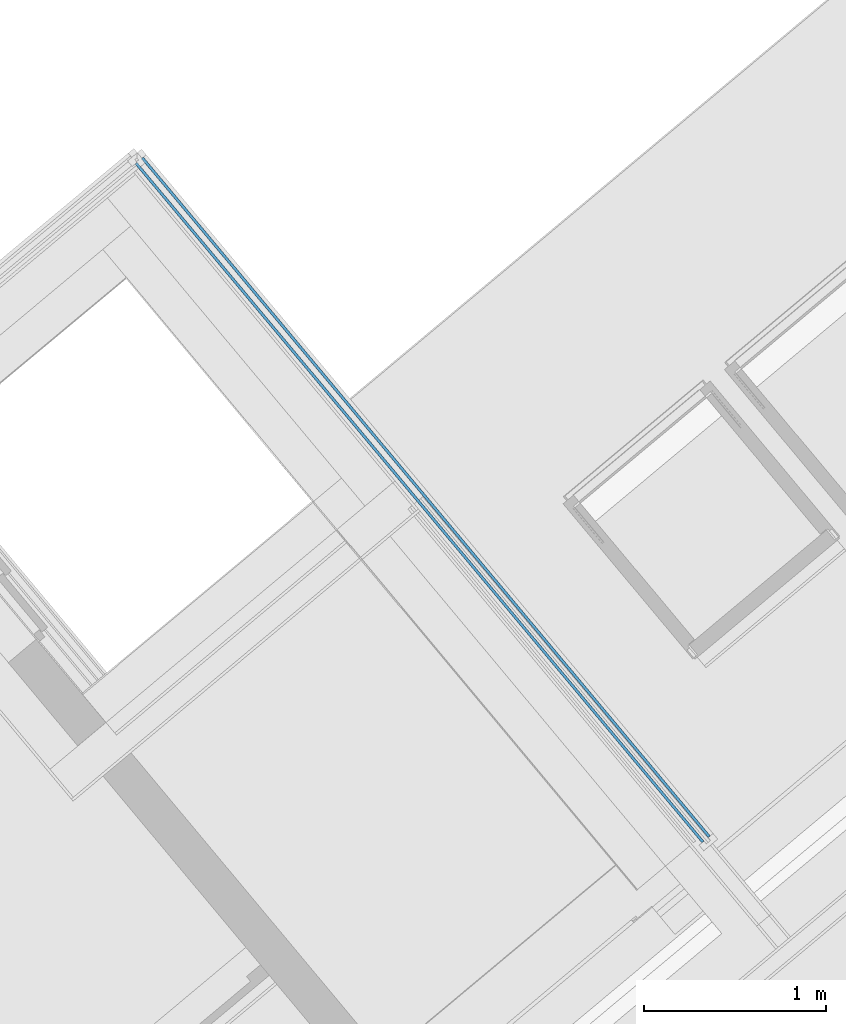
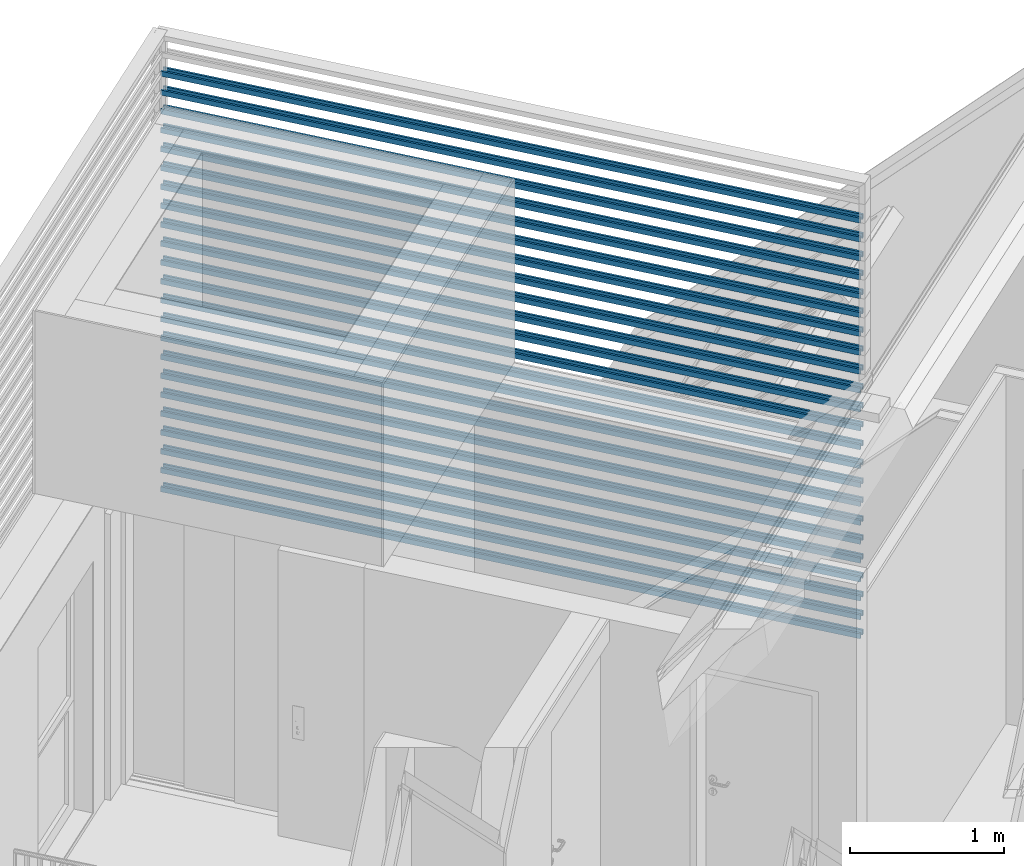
# One storey, part 28 of 47: 23 building element parts, 1 element without a shape of its own.
"""IFC4 building model written with IfcOpenShell, lengths in metres."""

from ifc_helpers import new_model, entity, si_unit, converted_unit, derived_unit, direction, frame, origin_with_axes, place, context, subcontext, project, spatial, polygons, material, type_object, element, aggregate, save


model = new_model("IFC4")

# Units and contexts
model_context = context("Model", 3, precision=1e-05, world=origin_with_axes(), true_north=direction((0.0, 1.0)))
body_context = subcontext(model_context, "Body", "Model", "MODEL_VIEW")
ifc_project = project(units=[si_unit("LENGTHUNIT", "METRE"), si_unit("AREAUNIT", "SQUARE_METRE"), si_unit("VOLUMEUNIT", "CUBIC_METRE"), converted_unit("PLANEANGLEUNIT", "DEGREE", entity("IfcPlaneAngleMeasure", 0.0174532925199), si_unit("PLANEANGLEUNIT", "RADIAN"), dimensions=[0, 0, 0, 0, 0, 0, 0]), converted_unit("TIMEUNIT", "Year", entity("IfcTimeMeasure", 31556926.0), si_unit("TIMEUNIT", "SECOND"), dimensions=[0, 0, 1, 0, 0, 0, 0]), si_unit("MASSUNIT", "GRAM", prefix="KILO"), si_unit("THERMODYNAMICTEMPERATUREUNIT", "DEGREE_CELSIUS"), si_unit("LUMINOUSINTENSITYUNIT", "LUMEN"), si_unit("ENERGYUNIT", "JOULE", prefix="MEGA"), derived_unit("THERMALCONDUCTANCEUNIT", [(si_unit("POWERUNIT", "WATT"), 1), (si_unit("LENGTHUNIT", "METRE"), -1), (si_unit("THERMODYNAMICTEMPERATUREUNIT", "KELVIN"), -1)]), derived_unit("SPECIFICHEATCAPACITYUNIT", [(si_unit("ENERGYUNIT", "JOULE"), 1), (si_unit("MASSUNIT", "GRAM", prefix="KILO"), -1), (si_unit("THERMODYNAMICTEMPERATUREUNIT", "KELVIN"), -1)]), derived_unit("MASSDENSITYUNIT", [(si_unit("MASSUNIT", "GRAM", prefix="KILO"), 1), (si_unit("VOLUMEUNIT", "CUBIC_METRE"), -1)])], contexts=[model_context])

# Site, building, storey
site_placement = place(None, frame((-0.00153261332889, -0.00661245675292, 0.0), z_axis=(0.0, 0.0, 1.0), x_axis=(1.0, 0.0, 0.0)))
site = spatial("IfcSite", under=ifc_project, at=site_placement, Name="Site", CompositionType="ELEMENT")
building_placement = place(site_placement, origin_with_axes())
building = spatial("IfcBuilding", under=site, at=building_placement, Name="Building", CompositionType="ELEMENT")
storey_placement = place(building_placement, frame((0.0, 0.0, 8.66), z_axis=(0.0, 0.0, 1.0), x_axis=(1.0, 0.0, 0.0)))
storey = spatial("IfcBuildingStorey", under=building, at=storey_placement, Name="DG2", CompositionType="ELEMENT", Elevation=8.66)

# Curtain wall, building element parts
curtain_wall_type = type_object("IfcCurtainWallType", Name="Fassadentyp", PredefinedType="NOTDEFINED")
curtain_wall_placement = place(storey_placement, frame((3.22758193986, 25.8519152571, 0.32), z_axis=(0.0, 0.0, 1.0), x_axis=(1.0, 0.0, 0.0)))
curtain_wall = element("IfcCurtainWall", 1, at=curtain_wall_placement, inside=storey, type_object=curtain_wall_type, Name="Fassade-001", PredefinedType="NOTDEFINED")
ifc_material = material(Name="Blech")
building_element_part_1_placement = place(curtain_wall_placement, origin_with_axes())
building_element_part_1 = element("IfcBuildingElementPart", 2, at=building_element_part_1_placement, material=ifc_material, Name="Blech", PredefinedType="NOTDEFINED", context=body_context, shape_type="Tessellation", body=[
    polygons([(-1.56506390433, 1.85045496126, 0.75), (-1.56506390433, 1.85045496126, 0.77), (1.54203854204, -1.86968599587, 0.77), (1.54203854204, -1.86968599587, 0.75), (1.54203854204, -1.86968599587, 0.73), (-1.56506390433, 1.85045496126, 0.73), (-1.57657658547, 1.84083944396, 0.73), (-1.57657658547, 1.84083944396, 0.77), (1.5305258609, -1.87930151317, 0.77), (1.5305258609, -1.87930151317, 0.73)], [[[1, 2, 3, 4, 5, 6]], [[6, 7, 8, 2, 1]], [[3, 2, 8, 9]], [[4, 3, 9, 10, 5]], [[5, 10, 7, 6]], [[10, 9, 8, 7]]], closed=True),
    polygons([(1.56506390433, -1.85045496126, 0.73), (1.57657658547, -1.84083944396, 0.73), (1.57657658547, -1.84083944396, 0.77), (1.56506390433, -1.85045496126, 0.77), (1.56506390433, -1.85045496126, 0.75), (-1.54203854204, 1.86968599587, 0.73), (-1.5305258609, 1.87930151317, 0.73), (-1.5305258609, 1.87930151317, 0.77), (-1.54203854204, 1.86968599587, 0.77), (-1.54203854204, 1.86968599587, 0.75)], [[[1, 2, 3, 4, 5]], [[6, 7, 2, 1]], [[3, 2, 7, 8]], [[9, 4, 3, 8]], [[5, 4, 9, 10, 6, 1]], [[10, 9, 8, 7, 6]]], closed=True),
])
building_element_part_2_placement = place(curtain_wall_placement, origin_with_axes())
building_element_part_2 = element("IfcBuildingElementPart", 3, at=building_element_part_2_placement, material=ifc_material, Name="Blech", PredefinedType="NOTDEFINED", context=body_context, shape_type="Tessellation", body=[
    polygons([(-1.56506390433, 1.85045496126, 0.9), (-1.56506390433, 1.85045496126, 0.92), (1.54203854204, -1.86968599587, 0.92), (1.54203854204, -1.86968599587, 0.9), (1.54203854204, -1.86968599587, 0.88), (-1.56506390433, 1.85045496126, 0.88), (-1.57657658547, 1.84083944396, 0.88), (-1.57657658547, 1.84083944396, 0.92), (1.5305258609, -1.87930151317, 0.92), (1.5305258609, -1.87930151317, 0.88)], [[[1, 2, 3, 4, 5, 6]], [[6, 7, 8, 2, 1]], [[3, 2, 8, 9]], [[4, 3, 9, 10, 5]], [[5, 10, 7, 6]], [[10, 9, 8, 7]]], closed=True),
    polygons([(1.56506390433, -1.85045496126, 0.88), (1.57657658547, -1.84083944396, 0.88), (1.57657658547, -1.84083944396, 0.92), (1.56506390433, -1.85045496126, 0.92), (1.56506390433, -1.85045496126, 0.9), (-1.54203854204, 1.86968599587, 0.88), (-1.5305258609, 1.87930151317, 0.88), (-1.5305258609, 1.87930151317, 0.92), (-1.54203854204, 1.86968599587, 0.92), (-1.54203854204, 1.86968599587, 0.9)], [[[1, 2, 3, 4, 5]], [[6, 7, 2, 1]], [[3, 2, 7, 8]], [[9, 4, 3, 8]], [[5, 4, 9, 10, 6, 1]], [[10, 9, 8, 7, 6]]], closed=True),
])
building_element_part_3_placement = place(curtain_wall_placement, origin_with_axes())
building_element_part_3 = element("IfcBuildingElementPart", 4, at=building_element_part_3_placement, material=ifc_material, Name="Blech", PredefinedType="NOTDEFINED", context=body_context, shape_type="Tessellation", body=[
    polygons([(-1.56506390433, 1.85045496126, 1.05), (-1.56506390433, 1.85045496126, 1.07), (1.54203854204, -1.86968599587, 1.07), (1.54203854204, -1.86968599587, 1.05), (1.54203854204, -1.86968599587, 1.03), (-1.56506390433, 1.85045496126, 1.03), (-1.57657658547, 1.84083944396, 1.03), (-1.57657658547, 1.84083944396, 1.07), (1.5305258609, -1.87930151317, 1.07), (1.5305258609, -1.87930151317, 1.03)], [[[1, 2, 3, 4, 5, 6]], [[6, 7, 8, 2, 1]], [[3, 2, 8, 9]], [[4, 3, 9, 10, 5]], [[5, 10, 7, 6]], [[10, 9, 8, 7]]], closed=True),
    polygons([(1.56506390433, -1.85045496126, 1.03), (1.57657658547, -1.84083944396, 1.03), (1.57657658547, -1.84083944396, 1.07), (1.56506390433, -1.85045496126, 1.07), (1.56506390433, -1.85045496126, 1.05), (-1.54203854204, 1.86968599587, 1.03), (-1.5305258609, 1.87930151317, 1.03), (-1.5305258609, 1.87930151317, 1.07), (-1.54203854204, 1.86968599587, 1.07), (-1.54203854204, 1.86968599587, 1.05)], [[[1, 2, 3, 4, 5]], [[6, 7, 2, 1]], [[3, 2, 7, 8]], [[9, 4, 3, 8]], [[5, 4, 9, 10, 6, 1]], [[10, 9, 8, 7, 6]]], closed=True),
])
building_element_part_4_placement = place(curtain_wall_placement, origin_with_axes())
building_element_part_4 = element("IfcBuildingElementPart", 5, at=building_element_part_4_placement, material=ifc_material, Name="Blech", PredefinedType="NOTDEFINED", context=body_context, shape_type="Tessellation", body=[
    polygons([(-1.56506390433, 1.85045496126, 1.2), (-1.56506390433, 1.85045496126, 1.22), (1.54203854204, -1.86968599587, 1.22), (1.54203854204, -1.86968599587, 1.2), (1.54203854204, -1.86968599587, 1.18), (-1.56506390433, 1.85045496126, 1.18), (-1.57657658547, 1.84083944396, 1.18), (-1.57657658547, 1.84083944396, 1.22), (1.5305258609, -1.87930151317, 1.22), (1.5305258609, -1.87930151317, 1.18)], [[[1, 2, 3, 4, 5, 6]], [[6, 7, 8, 2, 1]], [[3, 2, 8, 9]], [[4, 3, 9, 10, 5]], [[5, 10, 7, 6]], [[10, 9, 8, 7]]], closed=True),
    polygons([(1.56506390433, -1.85045496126, 1.18), (1.57657658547, -1.84083944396, 1.18), (1.57657658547, -1.84083944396, 1.22), (1.56506390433, -1.85045496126, 1.22), (1.56506390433, -1.85045496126, 1.2), (-1.54203854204, 1.86968599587, 1.18), (-1.5305258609, 1.87930151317, 1.18), (-1.5305258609, 1.87930151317, 1.22), (-1.54203854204, 1.86968599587, 1.22), (-1.54203854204, 1.86968599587, 1.2)], [[[1, 2, 3, 4, 5]], [[6, 7, 2, 1]], [[3, 2, 7, 8]], [[9, 4, 3, 8]], [[5, 4, 9, 10, 6, 1]], [[10, 9, 8, 7, 6]]], closed=True),
])
building_element_part_5_placement = place(curtain_wall_placement, origin_with_axes())
building_element_part_5 = element("IfcBuildingElementPart", 6, at=building_element_part_5_placement, material=ifc_material, Name="Blech", PredefinedType="NOTDEFINED", context=body_context, shape_type="Tessellation", body=[
    polygons([(-1.56506390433, 1.85045496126, 1.35), (-1.56506390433, 1.85045496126, 1.37), (1.54203854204, -1.86968599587, 1.37), (1.54203854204, -1.86968599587, 1.35), (1.54203854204, -1.86968599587, 1.33), (-1.56506390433, 1.85045496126, 1.33), (-1.57657658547, 1.84083944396, 1.33), (-1.57657658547, 1.84083944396, 1.37), (1.5305258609, -1.87930151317, 1.37), (1.5305258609, -1.87930151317, 1.33)], [[[1, 2, 3, 4, 5, 6]], [[6, 7, 8, 2, 1]], [[3, 2, 8, 9]], [[4, 3, 9, 10, 5]], [[5, 10, 7, 6]], [[10, 9, 8, 7]]], closed=True),
    polygons([(1.56506390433, -1.85045496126, 1.33), (1.57657658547, -1.84083944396, 1.33), (1.57657658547, -1.84083944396, 1.37), (1.56506390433, -1.85045496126, 1.37), (1.56506390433, -1.85045496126, 1.35), (-1.54203854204, 1.86968599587, 1.33), (-1.5305258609, 1.87930151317, 1.33), (-1.5305258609, 1.87930151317, 1.37), (-1.54203854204, 1.86968599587, 1.37), (-1.54203854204, 1.86968599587, 1.35)], [[[1, 2, 3, 4, 5]], [[6, 7, 2, 1]], [[3, 2, 7, 8]], [[9, 4, 3, 8]], [[5, 4, 9, 10, 6, 1]], [[10, 9, 8, 7, 6]]], closed=True),
])
building_element_part_6_placement = place(curtain_wall_placement, origin_with_axes())
building_element_part_6 = element("IfcBuildingElementPart", 7, at=building_element_part_6_placement, material=ifc_material, Name="Blech", PredefinedType="NOTDEFINED", context=body_context, shape_type="Tessellation", body=[
    polygons([(-1.56506390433, 1.85045496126, 1.5), (-1.56506390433, 1.85045496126, 1.52), (1.54203854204, -1.86968599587, 1.52), (1.54203854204, -1.86968599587, 1.5), (1.54203854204, -1.86968599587, 1.48), (-1.56506390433, 1.85045496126, 1.48), (-1.57657658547, 1.84083944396, 1.48), (-1.57657658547, 1.84083944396, 1.52), (1.5305258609, -1.87930151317, 1.52), (1.5305258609, -1.87930151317, 1.48)], [[[1, 2, 3, 4, 5, 6]], [[6, 7, 8, 2, 1]], [[3, 2, 8, 9]], [[4, 3, 9, 10, 5]], [[5, 10, 7, 6]], [[10, 9, 8, 7]]], closed=True),
    polygons([(1.56506390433, -1.85045496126, 1.48), (1.57657658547, -1.84083944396, 1.48), (1.57657658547, -1.84083944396, 1.52), (1.56506390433, -1.85045496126, 1.52), (1.56506390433, -1.85045496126, 1.5), (-1.54203854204, 1.86968599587, 1.48), (-1.5305258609, 1.87930151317, 1.48), (-1.5305258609, 1.87930151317, 1.52), (-1.54203854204, 1.86968599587, 1.52), (-1.54203854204, 1.86968599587, 1.5)], [[[1, 2, 3, 4, 5]], [[6, 7, 2, 1]], [[3, 2, 7, 8]], [[9, 4, 3, 8]], [[5, 4, 9, 10, 6, 1]], [[10, 9, 8, 7, 6]]], closed=True),
])
building_element_part_7_placement = place(curtain_wall_placement, origin_with_axes())
building_element_part_7 = element("IfcBuildingElementPart", 8, at=building_element_part_7_placement, material=ifc_material, Name="Blech", PredefinedType="NOTDEFINED", context=body_context, shape_type="Tessellation", body=[
    polygons([(-1.56506390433, 1.85045496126, 1.65), (-1.56506390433, 1.85045496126, 1.67), (1.54203854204, -1.86968599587, 1.67), (1.54203854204, -1.86968599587, 1.65), (1.54203854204, -1.86968599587, 1.63), (-1.56506390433, 1.85045496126, 1.63), (-1.57657658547, 1.84083944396, 1.63), (-1.57657658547, 1.84083944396, 1.67), (1.5305258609, -1.87930151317, 1.67), (1.5305258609, -1.87930151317, 1.63)], [[[1, 2, 3, 4, 5, 6]], [[6, 7, 8, 2, 1]], [[3, 2, 8, 9]], [[4, 3, 9, 10, 5]], [[5, 10, 7, 6]], [[10, 9, 8, 7]]], closed=True),
    polygons([(1.56506390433, -1.85045496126, 1.63), (1.57657658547, -1.84083944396, 1.63), (1.57657658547, -1.84083944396, 1.67), (1.56506390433, -1.85045496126, 1.67), (1.56506390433, -1.85045496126, 1.65), (-1.54203854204, 1.86968599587, 1.63), (-1.5305258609, 1.87930151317, 1.63), (-1.5305258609, 1.87930151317, 1.67), (-1.54203854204, 1.86968599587, 1.67), (-1.54203854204, 1.86968599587, 1.65)], [[[1, 2, 3, 4, 5]], [[6, 7, 2, 1]], [[3, 2, 7, 8]], [[9, 4, 3, 8]], [[5, 4, 9, 10, 6, 1]], [[10, 9, 8, 7, 6]]], closed=True),
])
building_element_part_8_placement = place(curtain_wall_placement, origin_with_axes())
building_element_part_8 = element("IfcBuildingElementPart", 9, at=building_element_part_8_placement, material=ifc_material, Name="Blech", PredefinedType="NOTDEFINED", context=body_context, shape_type="Tessellation", body=[
    polygons([(-1.56506390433, 1.85045496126, 1.8), (-1.56506390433, 1.85045496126, 1.82), (1.54203854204, -1.86968599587, 1.82), (1.54203854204, -1.86968599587, 1.8), (1.54203854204, -1.86968599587, 1.78), (-1.56506390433, 1.85045496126, 1.78), (-1.57657658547, 1.84083944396, 1.78), (-1.57657658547, 1.84083944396, 1.82), (1.5305258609, -1.87930151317, 1.82), (1.5305258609, -1.87930151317, 1.78)], [[[1, 2, 3, 4, 5, 6]], [[6, 7, 8, 2, 1]], [[3, 2, 8, 9]], [[4, 3, 9, 10, 5]], [[5, 10, 7, 6]], [[10, 9, 8, 7]]], closed=True),
    polygons([(1.56506390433, -1.85045496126, 1.78), (1.57657658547, -1.84083944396, 1.78), (1.57657658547, -1.84083944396, 1.82), (1.56506390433, -1.85045496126, 1.82), (1.56506390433, -1.85045496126, 1.8), (-1.54203854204, 1.86968599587, 1.78), (-1.5305258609, 1.87930151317, 1.78), (-1.5305258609, 1.87930151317, 1.82), (-1.54203854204, 1.86968599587, 1.82), (-1.54203854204, 1.86968599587, 1.8)], [[[1, 2, 3, 4, 5]], [[6, 7, 2, 1]], [[3, 2, 7, 8]], [[9, 4, 3, 8]], [[5, 4, 9, 10, 6, 1]], [[10, 9, 8, 7, 6]]], closed=True),
])
building_element_part_9_placement = place(curtain_wall_placement, origin_with_axes())
building_element_part_9 = element("IfcBuildingElementPart", 10, at=building_element_part_9_placement, material=ifc_material, Name="Blech", PredefinedType="NOTDEFINED", context=body_context, shape_type="Tessellation", body=[
    polygons([(-1.56506390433, 1.85045496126, 1.95), (-1.56506390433, 1.85045496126, 1.97), (1.54203854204, -1.86968599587, 1.97), (1.54203854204, -1.86968599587, 1.95), (1.54203854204, -1.86968599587, 1.93), (-1.56506390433, 1.85045496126, 1.93), (-1.57657658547, 1.84083944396, 1.93), (-1.57657658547, 1.84083944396, 1.97), (1.5305258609, -1.87930151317, 1.97), (1.5305258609, -1.87930151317, 1.93)], [[[1, 2, 3, 4, 5, 6]], [[6, 7, 8, 2, 1]], [[3, 2, 8, 9]], [[4, 3, 9, 10, 5]], [[5, 10, 7, 6]], [[10, 9, 8, 7]]], closed=True),
    polygons([(1.56506390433, -1.85045496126, 1.93), (1.57657658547, -1.84083944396, 1.93), (1.57657658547, -1.84083944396, 1.97), (1.56506390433, -1.85045496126, 1.97), (1.56506390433, -1.85045496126, 1.95), (-1.54203854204, 1.86968599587, 1.93), (-1.5305258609, 1.87930151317, 1.93), (-1.5305258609, 1.87930151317, 1.97), (-1.54203854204, 1.86968599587, 1.97), (-1.54203854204, 1.86968599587, 1.95)], [[[1, 2, 3, 4, 5]], [[6, 7, 2, 1]], [[3, 2, 7, 8]], [[9, 4, 3, 8]], [[5, 4, 9, 10, 6, 1]], [[10, 9, 8, 7, 6]]], closed=True),
])
building_element_part_10_placement = place(curtain_wall_placement, origin_with_axes())
building_element_part_10 = element("IfcBuildingElementPart", 11, at=building_element_part_10_placement, material=ifc_material, Name="Blech", PredefinedType="NOTDEFINED", context=body_context, shape_type="Tessellation", body=[
    polygons([(-1.56506390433, 1.85045496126, 2.1), (-1.56506390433, 1.85045496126, 2.12), (1.54203854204, -1.86968599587, 2.12), (1.54203854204, -1.86968599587, 2.1), (1.54203854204, -1.86968599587, 2.08), (-1.56506390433, 1.85045496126, 2.08), (-1.57657658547, 1.84083944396, 2.08), (-1.57657658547, 1.84083944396, 2.12), (1.5305258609, -1.87930151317, 2.12), (1.5305258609, -1.87930151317, 2.08)], [[[1, 2, 3, 4, 5, 6]], [[6, 7, 8, 2, 1]], [[3, 2, 8, 9]], [[4, 3, 9, 10, 5]], [[5, 10, 7, 6]], [[10, 9, 8, 7]]], closed=True),
    polygons([(1.56506390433, -1.85045496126, 2.08), (1.57657658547, -1.84083944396, 2.08), (1.57657658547, -1.84083944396, 2.12), (1.56506390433, -1.85045496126, 2.12), (1.56506390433, -1.85045496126, 2.1), (-1.54203854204, 1.86968599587, 2.08), (-1.5305258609, 1.87930151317, 2.08), (-1.5305258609, 1.87930151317, 2.12), (-1.54203854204, 1.86968599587, 2.12), (-1.54203854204, 1.86968599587, 2.1)], [[[1, 2, 3, 4, 5]], [[6, 7, 2, 1]], [[3, 2, 7, 8]], [[9, 4, 3, 8]], [[5, 4, 9, 10, 6, 1]], [[10, 9, 8, 7, 6]]], closed=True),
])
building_element_part_11_placement = place(curtain_wall_placement, origin_with_axes())
building_element_part_11 = element("IfcBuildingElementPart", 12, at=building_element_part_11_placement, material=ifc_material, Name="Blech", PredefinedType="NOTDEFINED", context=body_context, shape_type="Tessellation", body=[
    polygons([(-1.56506390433, 1.85045496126, 2.25), (-1.56506390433, 1.85045496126, 2.27), (1.54203854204, -1.86968599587, 2.27), (1.54203854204, -1.86968599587, 2.25), (1.54203854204, -1.86968599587, 2.23), (-1.56506390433, 1.85045496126, 2.23), (-1.57657658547, 1.84083944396, 2.23), (-1.57657658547, 1.84083944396, 2.27), (1.5305258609, -1.87930151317, 2.27), (1.5305258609, -1.87930151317, 2.23)], [[[1, 2, 3, 4, 5, 6]], [[6, 7, 8, 2, 1]], [[3, 2, 8, 9]], [[4, 3, 9, 10, 5]], [[5, 10, 7, 6]], [[10, 9, 8, 7]]], closed=True),
    polygons([(1.56506390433, -1.85045496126, 2.23), (1.57657658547, -1.84083944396, 2.23), (1.57657658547, -1.84083944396, 2.27), (1.56506390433, -1.85045496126, 2.27), (1.56506390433, -1.85045496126, 2.25), (-1.54203854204, 1.86968599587, 2.23), (-1.5305258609, 1.87930151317, 2.23), (-1.5305258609, 1.87930151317, 2.27), (-1.54203854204, 1.86968599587, 2.27), (-1.54203854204, 1.86968599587, 2.25)], [[[1, 2, 3, 4, 5]], [[6, 7, 2, 1]], [[3, 2, 7, 8]], [[9, 4, 3, 8]], [[5, 4, 9, 10, 6, 1]], [[10, 9, 8, 7, 6]]], closed=True),
])
building_element_part_12_placement = place(curtain_wall_placement, origin_with_axes())
building_element_part_12 = element("IfcBuildingElementPart", 13, at=building_element_part_12_placement, material=ifc_material, Name="Blech", PredefinedType="NOTDEFINED", context=body_context, shape_type="Tessellation", body=[
    polygons([(-1.56506390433, 1.85045496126, 2.4), (-1.56506390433, 1.85045496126, 2.42), (1.54203854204, -1.86968599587, 2.42), (1.54203854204, -1.86968599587, 2.4), (1.54203854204, -1.86968599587, 2.38), (-1.56506390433, 1.85045496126, 2.38), (-1.57657658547, 1.84083944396, 2.38), (-1.57657658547, 1.84083944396, 2.42), (1.5305258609, -1.87930151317, 2.42), (1.5305258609, -1.87930151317, 2.38)], [[[1, 2, 3, 4, 5, 6]], [[6, 7, 8, 2, 1]], [[3, 2, 8, 9]], [[4, 3, 9, 10, 5]], [[5, 10, 7, 6]], [[10, 9, 8, 7]]], closed=True),
    polygons([(1.56506390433, -1.85045496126, 2.38), (1.57657658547, -1.84083944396, 2.38), (1.57657658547, -1.84083944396, 2.42), (1.56506390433, -1.85045496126, 2.42), (1.56506390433, -1.85045496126, 2.4), (-1.54203854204, 1.86968599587, 2.38), (-1.5305258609, 1.87930151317, 2.38), (-1.5305258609, 1.87930151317, 2.42), (-1.54203854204, 1.86968599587, 2.42), (-1.54203854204, 1.86968599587, 2.4)], [[[1, 2, 3, 4, 5]], [[6, 7, 2, 1]], [[3, 2, 7, 8]], [[9, 4, 3, 8]], [[5, 4, 9, 10, 6, 1]], [[10, 9, 8, 7, 6]]], closed=True),
])
building_element_part_13_placement = place(curtain_wall_placement, origin_with_axes())
building_element_part_13 = element("IfcBuildingElementPart", 14, at=building_element_part_13_placement, material=ifc_material, Name="Blech", PredefinedType="NOTDEFINED", context=body_context, shape_type="Tessellation", body=[
    polygons([(-1.56506390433, 1.85045496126, 2.55), (-1.56506390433, 1.85045496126, 2.57), (1.54203854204, -1.86968599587, 2.57), (1.54203854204, -1.86968599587, 2.55), (1.54203854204, -1.86968599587, 2.53), (-1.56506390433, 1.85045496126, 2.53), (-1.57657658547, 1.84083944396, 2.53), (-1.57657658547, 1.84083944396, 2.57), (1.5305258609, -1.87930151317, 2.57), (1.5305258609, -1.87930151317, 2.53)], [[[1, 2, 3, 4, 5, 6]], [[6, 7, 8, 2, 1]], [[3, 2, 8, 9]], [[4, 3, 9, 10, 5]], [[5, 10, 7, 6]], [[10, 9, 8, 7]]], closed=True),
    polygons([(1.56506390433, -1.85045496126, 2.53), (1.57657658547, -1.84083944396, 2.53), (1.57657658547, -1.84083944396, 2.57), (1.56506390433, -1.85045496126, 2.57), (1.56506390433, -1.85045496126, 2.55), (-1.54203854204, 1.86968599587, 2.53), (-1.5305258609, 1.87930151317, 2.53), (-1.5305258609, 1.87930151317, 2.57), (-1.54203854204, 1.86968599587, 2.57), (-1.54203854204, 1.86968599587, 2.55)], [[[1, 2, 3, 4, 5]], [[6, 7, 2, 1]], [[3, 2, 7, 8]], [[9, 4, 3, 8]], [[5, 4, 9, 10, 6, 1]], [[10, 9, 8, 7, 6]]], closed=True),
])
building_element_part_14_placement = place(curtain_wall_placement, origin_with_axes())
building_element_part_14 = element("IfcBuildingElementPart", 15, at=building_element_part_14_placement, material=ifc_material, Name="Blech", PredefinedType="NOTDEFINED", context=body_context, shape_type="Tessellation", body=[
    polygons([(-1.56506390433, 1.85045496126, 2.7), (-1.56506390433, 1.85045496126, 2.72), (1.54203854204, -1.86968599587, 2.72), (1.54203854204, -1.86968599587, 2.7), (1.54203854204, -1.86968599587, 2.68), (-1.56506390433, 1.85045496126, 2.68), (-1.57657658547, 1.84083944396, 2.68), (-1.57657658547, 1.84083944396, 2.72), (1.5305258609, -1.87930151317, 2.72), (1.5305258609, -1.87930151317, 2.68)], [[[1, 2, 3, 4, 5, 6]], [[6, 7, 8, 2, 1]], [[3, 2, 8, 9]], [[4, 3, 9, 10, 5]], [[5, 10, 7, 6]], [[10, 9, 8, 7]]], closed=True),
    polygons([(1.56506390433, -1.85045496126, 2.68), (1.57657658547, -1.84083944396, 2.68), (1.57657658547, -1.84083944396, 2.72), (1.56506390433, -1.85045496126, 2.72), (1.56506390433, -1.85045496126, 2.7), (-1.54203854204, 1.86968599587, 2.68), (-1.5305258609, 1.87930151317, 2.68), (-1.5305258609, 1.87930151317, 2.72), (-1.54203854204, 1.86968599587, 2.72), (-1.54203854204, 1.86968599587, 2.7)], [[[1, 2, 3, 4, 5]], [[6, 7, 2, 1]], [[3, 2, 7, 8]], [[9, 4, 3, 8]], [[5, 4, 9, 10, 6, 1]], [[10, 9, 8, 7, 6]]], closed=True),
])
building_element_part_15_placement = place(curtain_wall_placement, origin_with_axes())
building_element_part_15 = element("IfcBuildingElementPart", 16, at=building_element_part_15_placement, material=ifc_material, Name="Blech", PredefinedType="NOTDEFINED", context=body_context, shape_type="Tessellation", body=[
    polygons([(-1.56506390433, 1.85045496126, 2.85), (-1.56506390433, 1.85045496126, 2.87), (1.54203854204, -1.86968599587, 2.87), (1.54203854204, -1.86968599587, 2.85), (1.54203854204, -1.86968599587, 2.83), (-1.56506390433, 1.85045496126, 2.83), (-1.57657658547, 1.84083944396, 2.83), (-1.57657658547, 1.84083944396, 2.87), (1.5305258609, -1.87930151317, 2.87), (1.5305258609, -1.87930151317, 2.83)], [[[1, 2, 3, 4, 5, 6]], [[6, 7, 8, 2, 1]], [[3, 2, 8, 9]], [[4, 3, 9, 10, 5]], [[5, 10, 7, 6]], [[10, 9, 8, 7]]], closed=True),
    polygons([(1.56506390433, -1.85045496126, 2.83), (1.57657658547, -1.84083944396, 2.83), (1.57657658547, -1.84083944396, 2.87), (1.56506390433, -1.85045496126, 2.87), (1.56506390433, -1.85045496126, 2.85), (-1.54203854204, 1.86968599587, 2.83), (-1.5305258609, 1.87930151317, 2.83), (-1.5305258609, 1.87930151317, 2.87), (-1.54203854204, 1.86968599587, 2.87), (-1.54203854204, 1.86968599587, 2.85)], [[[1, 2, 3, 4, 5]], [[6, 7, 2, 1]], [[3, 2, 7, 8]], [[9, 4, 3, 8]], [[5, 4, 9, 10, 6, 1]], [[10, 9, 8, 7, 6]]], closed=True),
])
building_element_part_16_placement = place(curtain_wall_placement, origin_with_axes())
building_element_part_16 = element("IfcBuildingElementPart", 17, at=building_element_part_16_placement, material=ifc_material, Name="Blech", PredefinedType="NOTDEFINED", context=body_context, shape_type="Tessellation", body=[
    polygons([(-1.56506390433, 1.85045496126, 3.0), (-1.56506390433, 1.85045496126, 3.02), (1.54203854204, -1.86968599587, 3.02), (1.54203854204, -1.86968599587, 3.0), (1.54203854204, -1.86968599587, 2.98), (-1.56506390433, 1.85045496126, 2.98), (-1.57657658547, 1.84083944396, 2.98), (-1.57657658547, 1.84083944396, 3.02), (1.5305258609, -1.87930151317, 3.02), (1.5305258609, -1.87930151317, 2.98)], [[[1, 2, 3, 4, 5, 6]], [[6, 7, 8, 2, 1]], [[3, 2, 8, 9]], [[4, 3, 9, 10, 5]], [[5, 10, 7, 6]], [[10, 9, 8, 7]]], closed=True),
    polygons([(1.56506390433, -1.85045496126, 2.98), (1.57657658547, -1.84083944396, 2.98), (1.57657658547, -1.84083944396, 3.02), (1.56506390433, -1.85045496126, 3.02), (1.56506390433, -1.85045496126, 3.0), (-1.54203854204, 1.86968599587, 2.98), (-1.5305258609, 1.87930151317, 2.98), (-1.5305258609, 1.87930151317, 3.02), (-1.54203854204, 1.86968599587, 3.02), (-1.54203854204, 1.86968599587, 3.0)], [[[1, 2, 3, 4, 5]], [[6, 7, 2, 1]], [[3, 2, 7, 8]], [[9, 4, 3, 8]], [[5, 4, 9, 10, 6, 1]], [[10, 9, 8, 7, 6]]], closed=True),
])
building_element_part_17_placement = place(curtain_wall_placement, origin_with_axes())
building_element_part_17 = element("IfcBuildingElementPart", 18, at=building_element_part_17_placement, material=ifc_material, Name="Blech", PredefinedType="NOTDEFINED", context=body_context, shape_type="Tessellation", body=[
    polygons([(-1.56506390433, 1.85045496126, 3.15), (-1.56506390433, 1.85045496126, 3.17), (1.54203854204, -1.86968599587, 3.17), (1.54203854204, -1.86968599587, 3.15), (1.54203854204, -1.86968599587, 3.13), (-1.56506390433, 1.85045496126, 3.13), (-1.57657658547, 1.84083944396, 3.13), (-1.57657658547, 1.84083944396, 3.17), (1.5305258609, -1.87930151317, 3.17), (1.5305258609, -1.87930151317, 3.13)], [[[1, 2, 3, 4, 5, 6]], [[6, 7, 8, 2, 1]], [[3, 2, 8, 9]], [[4, 3, 9, 10, 5]], [[5, 10, 7, 6]], [[10, 9, 8, 7]]], closed=True),
    polygons([(1.56506390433, -1.85045496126, 3.13), (1.57657658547, -1.84083944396, 3.13), (1.57657658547, -1.84083944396, 3.17), (1.56506390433, -1.85045496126, 3.17), (1.56506390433, -1.85045496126, 3.15), (-1.54203854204, 1.86968599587, 3.13), (-1.5305258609, 1.87930151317, 3.13), (-1.5305258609, 1.87930151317, 3.17), (-1.54203854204, 1.86968599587, 3.17), (-1.54203854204, 1.86968599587, 3.15)], [[[1, 2, 3, 4, 5]], [[6, 7, 2, 1]], [[3, 2, 7, 8]], [[9, 4, 3, 8]], [[5, 4, 9, 10, 6, 1]], [[10, 9, 8, 7, 6]]], closed=True),
])
building_element_part_18_placement = place(curtain_wall_placement, origin_with_axes())
building_element_part_18 = element("IfcBuildingElementPart", 19, at=building_element_part_18_placement, material=ifc_material, Name="Blech", PredefinedType="NOTDEFINED", context=body_context, shape_type="Tessellation", body=[
    polygons([(-1.56506390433, 1.85045496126, 3.3), (-1.56506390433, 1.85045496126, 3.32), (1.54203854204, -1.86968599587, 3.32), (1.54203854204, -1.86968599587, 3.3), (1.54203854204, -1.86968599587, 3.28), (-1.56506390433, 1.85045496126, 3.28), (-1.57657658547, 1.84083944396, 3.28), (-1.57657658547, 1.84083944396, 3.32), (1.5305258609, -1.87930151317, 3.32), (1.5305258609, -1.87930151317, 3.28)], [[[1, 2, 3, 4, 5, 6]], [[6, 7, 8, 2, 1]], [[3, 2, 8, 9]], [[4, 3, 9, 10, 5]], [[5, 10, 7, 6]], [[10, 9, 8, 7]]], closed=True),
    polygons([(1.56506390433, -1.85045496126, 3.28), (1.57657658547, -1.84083944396, 3.28), (1.57657658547, -1.84083944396, 3.32), (1.56506390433, -1.85045496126, 3.32), (1.56506390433, -1.85045496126, 3.3), (-1.54203854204, 1.86968599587, 3.28), (-1.5305258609, 1.87930151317, 3.28), (-1.5305258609, 1.87930151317, 3.32), (-1.54203854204, 1.86968599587, 3.32), (-1.54203854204, 1.86968599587, 3.3)], [[[1, 2, 3, 4, 5]], [[6, 7, 2, 1]], [[3, 2, 7, 8]], [[9, 4, 3, 8]], [[5, 4, 9, 10, 6, 1]], [[10, 9, 8, 7, 6]]], closed=True),
])
building_element_part_19_placement = place(curtain_wall_placement, origin_with_axes())
building_element_part_19 = element("IfcBuildingElementPart", 20, at=building_element_part_19_placement, material=ifc_material, Name="Blech", PredefinedType="NOTDEFINED", context=body_context, shape_type="Tessellation", body=[
    polygons([(-1.56506390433, 1.85045496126, 3.45), (-1.56506390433, 1.85045496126, 3.47), (1.54203854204, -1.86968599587, 3.47), (1.54203854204, -1.86968599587, 3.45), (1.54203854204, -1.86968599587, 3.43), (-1.56506390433, 1.85045496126, 3.43), (-1.57657658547, 1.84083944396, 3.43), (-1.57657658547, 1.84083944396, 3.47), (1.5305258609, -1.87930151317, 3.47), (1.5305258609, -1.87930151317, 3.43)], [[[1, 2, 3, 4, 5, 6]], [[6, 7, 8, 2, 1]], [[3, 2, 8, 9]], [[4, 3, 9, 10, 5]], [[5, 10, 7, 6]], [[10, 9, 8, 7]]], closed=True),
    polygons([(1.56506390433, -1.85045496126, 3.43), (1.57657658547, -1.84083944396, 3.43), (1.57657658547, -1.84083944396, 3.47), (1.56506390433, -1.85045496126, 3.47), (1.56506390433, -1.85045496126, 3.45), (-1.54203854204, 1.86968599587, 3.43), (-1.5305258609, 1.87930151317, 3.43), (-1.5305258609, 1.87930151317, 3.47), (-1.54203854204, 1.86968599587, 3.47), (-1.54203854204, 1.86968599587, 3.45)], [[[1, 2, 3, 4, 5]], [[6, 7, 2, 1]], [[3, 2, 7, 8]], [[9, 4, 3, 8]], [[5, 4, 9, 10, 6, 1]], [[10, 9, 8, 7, 6]]], closed=True),
])
building_element_part_20_placement = place(curtain_wall_placement, origin_with_axes())
building_element_part_20 = element("IfcBuildingElementPart", 21, at=building_element_part_20_placement, material=ifc_material, Name="Blech", PredefinedType="NOTDEFINED", context=body_context, shape_type="Tessellation", body=[
    polygons([(-1.56506390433, 1.85045496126, 3.6), (-1.56506390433, 1.85045496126, 3.62), (1.54203854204, -1.86968599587, 3.62), (1.54203854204, -1.86968599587, 3.6), (1.54203854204, -1.86968599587, 3.58), (-1.56506390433, 1.85045496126, 3.58), (-1.57657658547, 1.84083944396, 3.58), (-1.57657658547, 1.84083944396, 3.62), (1.5305258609, -1.87930151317, 3.62), (1.5305258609, -1.87930151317, 3.58)], [[[1, 2, 3, 4, 5, 6]], [[6, 7, 8, 2, 1]], [[3, 2, 8, 9]], [[4, 3, 9, 10, 5]], [[5, 10, 7, 6]], [[10, 9, 8, 7]]], closed=True),
    polygons([(1.56506390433, -1.85045496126, 3.58), (1.57657658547, -1.84083944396, 3.58), (1.57657658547, -1.84083944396, 3.62), (1.56506390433, -1.85045496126, 3.62), (1.56506390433, -1.85045496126, 3.6), (-1.54203854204, 1.86968599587, 3.58), (-1.5305258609, 1.87930151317, 3.58), (-1.5305258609, 1.87930151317, 3.62), (-1.54203854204, 1.86968599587, 3.62), (-1.54203854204, 1.86968599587, 3.6)], [[[1, 2, 3, 4, 5]], [[6, 7, 2, 1]], [[3, 2, 7, 8]], [[9, 4, 3, 8]], [[5, 4, 9, 10, 6, 1]], [[10, 9, 8, 7, 6]]], closed=True),
])
building_element_part_21_placement = place(curtain_wall_placement, origin_with_axes())
building_element_part_21 = element("IfcBuildingElementPart", 22, at=building_element_part_21_placement, material=ifc_material, Name="Blech", PredefinedType="NOTDEFINED", context=body_context, shape_type="Tessellation", body=[
    polygons([(-1.56506390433, 1.85045496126, 3.75), (-1.56506390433, 1.85045496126, 3.77), (1.54203854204, -1.86968599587, 3.77), (1.54203854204, -1.86968599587, 3.75), (1.54203854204, -1.86968599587, 3.73), (-1.56506390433, 1.85045496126, 3.73), (-1.57657658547, 1.84083944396, 3.73), (-1.57657658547, 1.84083944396, 3.77), (1.5305258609, -1.87930151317, 3.77), (1.5305258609, -1.87930151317, 3.73)], [[[1, 2, 3, 4, 5, 6]], [[6, 7, 8, 2, 1]], [[3, 2, 8, 9]], [[4, 3, 9, 10, 5]], [[5, 10, 7, 6]], [[10, 9, 8, 7]]], closed=True),
    polygons([(1.56506390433, -1.85045496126, 3.73), (1.57657658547, -1.84083944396, 3.73), (1.57657658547, -1.84083944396, 3.77), (1.56506390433, -1.85045496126, 3.77), (1.56506390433, -1.85045496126, 3.75), (-1.54203854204, 1.86968599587, 3.73), (-1.5305258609, 1.87930151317, 3.73), (-1.5305258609, 1.87930151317, 3.77), (-1.54203854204, 1.86968599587, 3.77), (-1.54203854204, 1.86968599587, 3.75)], [[[1, 2, 3, 4, 5]], [[6, 7, 2, 1]], [[3, 2, 7, 8]], [[9, 4, 3, 8]], [[5, 4, 9, 10, 6, 1]], [[10, 9, 8, 7, 6]]], closed=True),
])
building_element_part_22_placement = place(curtain_wall_placement, origin_with_axes())
building_element_part_22 = element("IfcBuildingElementPart", 23, at=building_element_part_22_placement, material=ifc_material, Name="Blech", PredefinedType="NOTDEFINED", context=body_context, shape_type="Tessellation", body=[
    polygons([(-1.56506390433, 1.85045496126, 3.9), (-1.56506390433, 1.85045496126, 3.92), (1.54203854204, -1.86968599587, 3.92), (1.54203854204, -1.86968599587, 3.9), (1.54203854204, -1.86968599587, 3.88), (-1.56506390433, 1.85045496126, 3.88), (-1.57657658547, 1.84083944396, 3.88), (-1.57657658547, 1.84083944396, 3.92), (1.5305258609, -1.87930151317, 3.92), (1.5305258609, -1.87930151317, 3.88)], [[[1, 2, 3, 4, 5, 6]], [[6, 7, 8, 2, 1]], [[3, 2, 8, 9]], [[4, 3, 9, 10, 5]], [[5, 10, 7, 6]], [[10, 9, 8, 7]]], closed=True),
    polygons([(1.56506390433, -1.85045496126, 3.88), (1.57657658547, -1.84083944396, 3.88), (1.57657658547, -1.84083944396, 3.92), (1.56506390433, -1.85045496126, 3.92), (1.56506390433, -1.85045496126, 3.9), (-1.54203854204, 1.86968599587, 3.88), (-1.5305258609, 1.87930151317, 3.88), (-1.5305258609, 1.87930151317, 3.92), (-1.54203854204, 1.86968599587, 3.92), (-1.54203854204, 1.86968599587, 3.9)], [[[1, 2, 3, 4, 5]], [[6, 7, 2, 1]], [[3, 2, 7, 8]], [[9, 4, 3, 8]], [[5, 4, 9, 10, 6, 1]], [[10, 9, 8, 7, 6]]], closed=True),
])
building_element_part_23_placement = place(curtain_wall_placement, origin_with_axes())
building_element_part_23 = element("IfcBuildingElementPart", 24, at=building_element_part_23_placement, material=ifc_material, Name="Blech", PredefinedType="NOTDEFINED", context=body_context, shape_type="Tessellation", body=[
    polygons([(-1.56506390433, 1.85045496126, 4.05), (-1.56506390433, 1.85045496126, 4.07), (1.54203854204, -1.86968599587, 4.07), (1.54203854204, -1.86968599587, 4.05), (1.54203854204, -1.86968599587, 4.03), (-1.56506390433, 1.85045496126, 4.03), (-1.57657658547, 1.84083944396, 4.03), (-1.57657658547, 1.84083944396, 4.07), (1.5305258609, -1.87930151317, 4.07), (1.5305258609, -1.87930151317, 4.03)], [[[1, 2, 3, 4, 5, 6]], [[6, 7, 8, 2, 1]], [[3, 2, 8, 9]], [[4, 3, 9, 10, 5]], [[5, 10, 7, 6]], [[10, 9, 8, 7]]], closed=True),
    polygons([(1.56506390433, -1.85045496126, 4.03), (1.57657658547, -1.84083944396, 4.03), (1.57657658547, -1.84083944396, 4.07), (1.56506390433, -1.85045496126, 4.07), (1.56506390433, -1.85045496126, 4.05), (-1.54203854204, 1.86968599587, 4.03), (-1.5305258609, 1.87930151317, 4.03), (-1.5305258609, 1.87930151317, 4.07), (-1.54203854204, 1.86968599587, 4.07), (-1.54203854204, 1.86968599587, 4.05)], [[[1, 2, 3, 4, 5]], [[6, 7, 2, 1]], [[3, 2, 7, 8]], [[9, 4, 3, 8]], [[5, 4, 9, 10, 6, 1]], [[10, 9, 8, 7, 6]]], closed=True),
])
aggregate(curtain_wall, [building_element_part_1, building_element_part_2, building_element_part_3, building_element_part_4, building_element_part_5, building_element_part_6, building_element_part_7, building_element_part_8, building_element_part_9, building_element_part_10, building_element_part_11, building_element_part_12, building_element_part_13, building_element_part_14, building_element_part_15, building_element_part_16, building_element_part_17, building_element_part_18, building_element_part_19, building_element_part_20, building_element_part_21, building_element_part_22, building_element_part_23])

save(model, "model.ifc")
